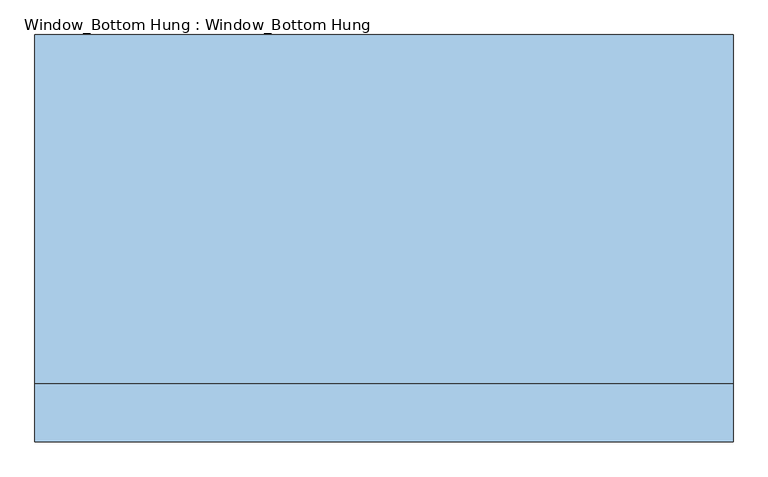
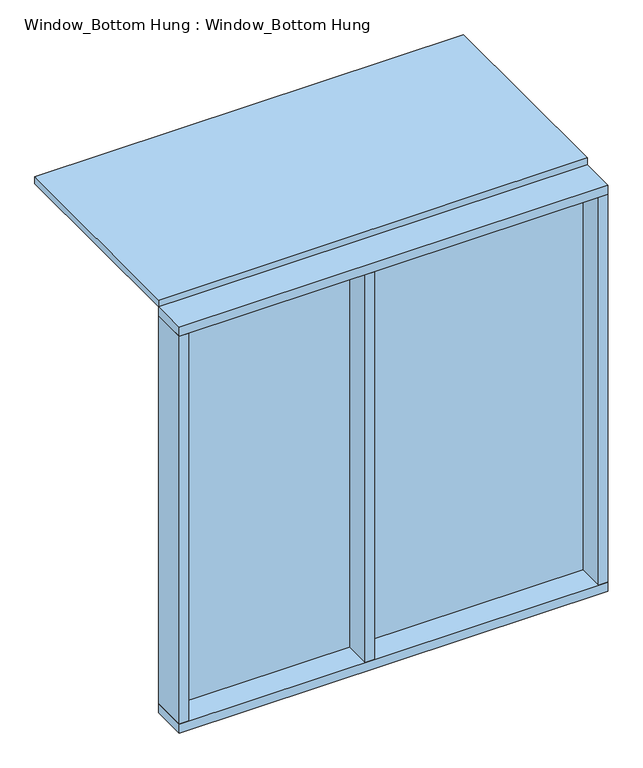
"""IFC4 building model written with IfcOpenShell, lengths in millimetres: window geometry, Window_Bottom Hung : Window_Bottom Hung."""

from ifc_helpers import new_model, si_unit, frame, origin, place, context, project, spatial, polyline, outline, extrude, source, transform, mapped, element, save


def window_bottom_hung_window_bottom_hung_3b05c637(model_context):
    return source(origin(), model_context, "Body", "SweptSolid", [
        extrude(outline(polyline([(860.0, 98.0), (-80.0, 98.0), (-80.0, 110.0), (860.0, 110.0), (860.0, 98.0)])), frame((0.0, 0.0, 1040.0), z_axis=(0.0, 0.0, 1.0), x_axis=(1.0, 0.0, 0.0)), (0.0, 0.0, 1.0), 1720.0),
        extrude(outline(polyline([(-120.0, 98.0), (-860.0, 98.0), (-860.0, 110.0), (-120.0, 110.0), (-120.0, 98.0)])), frame((0.0, 0.0, 1040.0), z_axis=(0.0, 0.0, 1.0), x_axis=(1.0, 0.0, 0.0)), (0.0, 0.0, 1.0), 1720.0),
        extrude(outline(polyline([(900.0, 135.0), (900.0, -15.0), (-900.0, -15.0), (-900.0, 135.0), (900.0, 135.0)])), frame((0.0, 0.0, 2760.0), z_axis=(0.0, 0.0, 1.0), x_axis=(1.0, 0.0, 0.0)), (0.0, 0.0, 1.0), 40.0),
        extrude(outline(polyline([(900.0, 135.0), (900.0, -15.0), (-900.0, -15.0), (-900.0, 135.0), (900.0, 135.0)])), frame((0.0, 0.0, 1000.0), z_axis=(0.0, 0.0, 1.0), x_axis=(1.0, 0.0, 0.0)), (0.0, 0.0, 1.0), 40.0),
        extrude(outline(polyline([(-120.0, -15.0), (-120.0, 135.0), (-80.0, 135.0), (-80.0, -15.0), (-120.0, -15.0)])), frame((0.0, 0.0, 1040.0), z_axis=(0.0, 0.0, 1.0), x_axis=(1.0, 0.0, 0.0)), (0.0, 0.0, 1.0), 1720.0),
        extrude(outline(polyline([(-860.0, -15.0), (-900.0, -15.0), (-900.0, 135.0), (-860.0, 135.0), (-860.0, -15.0)])), frame((0.0, 0.0, 1040.0), z_axis=(0.0, 0.0, 1.0), x_axis=(1.0, 0.0, 0.0)), (0.0, 0.0, 1.0), 1720.0),
        extrude(outline(polyline([(860.0, -15.0), (860.0, 135.0), (900.0, 135.0), (900.0, -15.0), (860.0, -15.0)])), frame((0.0, 0.0, 1040.0), z_axis=(0.0, 0.0, 1.0), x_axis=(1.0, 0.0, 0.0)), (0.0, 0.0, 1.0), 1720.0),
        extrude(outline(polyline([(900.0, 135.0), (-900.0, 135.0), (-900.0, 1035.0), (900.0, 1035.0), (900.0, 135.0)])), frame((0.0, 0.0, 2800.0), z_axis=(0.0, 0.0, 1.0), x_axis=(1.0, 0.0, 0.0)), (0.0, 0.0, 1.0), 30.0),
    ])


if __name__ == "__main__":
    model = new_model("IFC4")
    model_context = context("Model", 3, world=origin())
    ifc_project = project(units=[si_unit("LENGTHUNIT", "METRE", prefix="MILLI")], contexts=[model_context])
    site = spatial("IfcSite", under=ifc_project)
    building = spatial("IfcBuilding", under=site)
    placement = place(None, origin())
    window_bottom_hung_window_bottom_hung_shape = window_bottom_hung_window_bottom_hung_3b05c637(model_context)
    element("IfcWindow", 1, ObjectType="Window_Bottom Hung : Window_Bottom Hung", at=placement, inside=building, context=model_context, shape_type="MappedRepresentation", body=[
        mapped(window_bottom_hung_window_bottom_hung_shape, transform((0.0, 0.0, 0.0), x_axis=(1.0, 0.0, 0.0), y_axis=(0.0, 1.0, 0.0), z_axis=(0.0, 0.0, 1.0))),
    ])
    save(model, "model.ifc")
